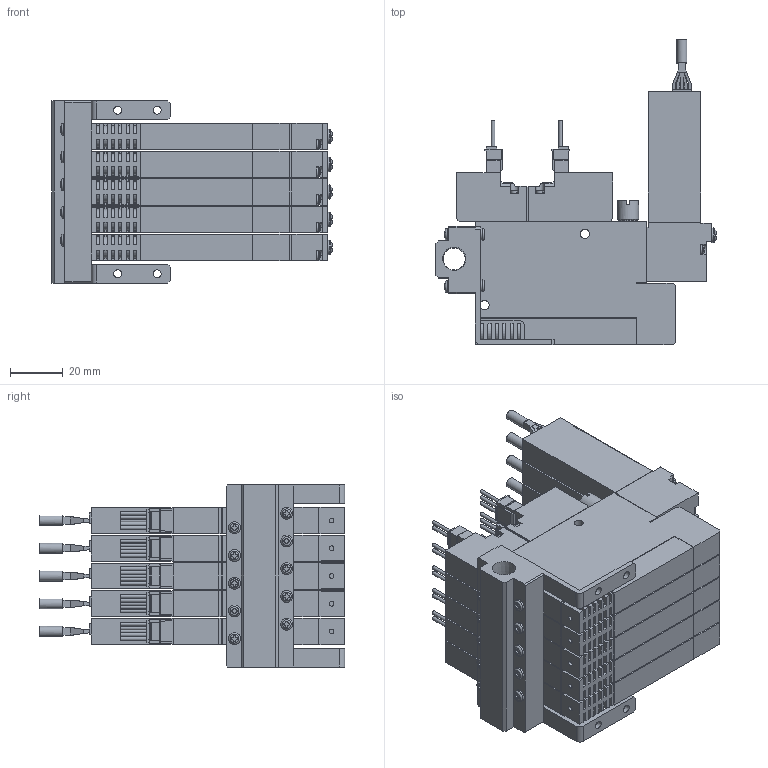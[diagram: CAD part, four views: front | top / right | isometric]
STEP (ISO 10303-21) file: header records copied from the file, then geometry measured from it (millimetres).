
FILE_DESCRIPTION(('STEP AP203'),'1');
FILE_NAME('5WS505_3D.stp','2024-09-04T22:51:47',(' '),(' '),'Spatial InterOp 3D',' ',' ');
FILE_SCHEMA(('CONFIG_CONTROL_DESIGN'));
Length unit declared in the file: millimetre
Products named in the file (5): BSC1M※※V9※5WS505; Solenoid valve W; Pressure Sensor V9; Unit-S; BaseMS50R
Assembly tree (16 placements, depth 2):
  BSC1M※※V9※5WS505
    Solenoid valve W  x5
    Pressure Sensor V9  x5
    Unit-S  x5
    BaseMS50R
Bounding box: 106.35 x 115.8 x 69 mm (x, y, z)
Volume: 298256 mm3; surface area: 118271 mm2
Topology: 16 solids, 16 shells, 2645 faces, 7255 edges, 4796 vertices
Faces by surface type: plane 1968, cylinder 592, sphere 29, torus 29, cone 27
Full cylindrical faces by diameter (mm): 1.4 x25, 1.8 x5, 2.5 x10, 3 x24, 3.5 x40, 3.8 x5, 4 x5, 4.134 x10, 4.5 x14, 5.5 x10, 7 x5, 7.7 x5, 8 x5, 8.422 x1
Entity records: 23310 total; most frequent: CARTESIAN_POINT 5093, DIRECTION 3638, ORIENTED_EDGE 3632, EDGE_CURVE 1816, LINE 1292, VECTOR 1292, VERTEX_POINT 1254, AXIS2_PLACEMENT_3D 1173
